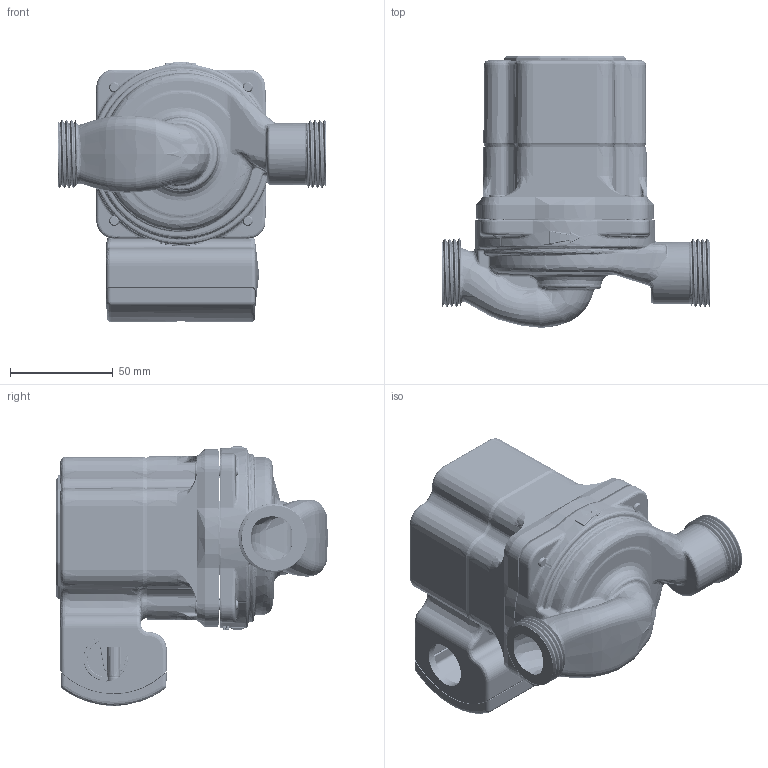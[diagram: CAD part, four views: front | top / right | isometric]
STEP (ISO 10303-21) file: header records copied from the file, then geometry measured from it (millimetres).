
FILE_DESCRIPTION (( 'STEP AP203' ), '1' );
FILE_NAME ('VR1816-DY2-US2W00.STEP', '2021-05-11T19:55:24', ( '' ), ( '' ), 'SwSTEP 2.0', 'SolidWorks 2019', '' );
FILE_SCHEMA (( 'CONFIG_CONTROL_DESIGN' ));
Products named in the file (1): VR1816-DY2-US2W00
Bounding box: 130.18 x 132.18 x 126.44 mm (x, y, z)
Surface area: 268006.3 mm2 (no closed solid volume)
Topology: 0 solids, 163 shells, 15500 faces, 39602 edges, 23810 vertices
Faces by surface type: bspline 5384, plane 5088, cylinder 4312, cone 532, torus 143, sphere 41
Entity records: 687650 total; most frequent: CARTESIAN_POINT 362681, ORIENTED_EDGE 77633, DIRECTION 52913, EDGE_CURVE 38844, VERTEX_POINT 23800, AXIS2_PLACEMENT_3D 17739, VECTOR 17435, LINE 17435
